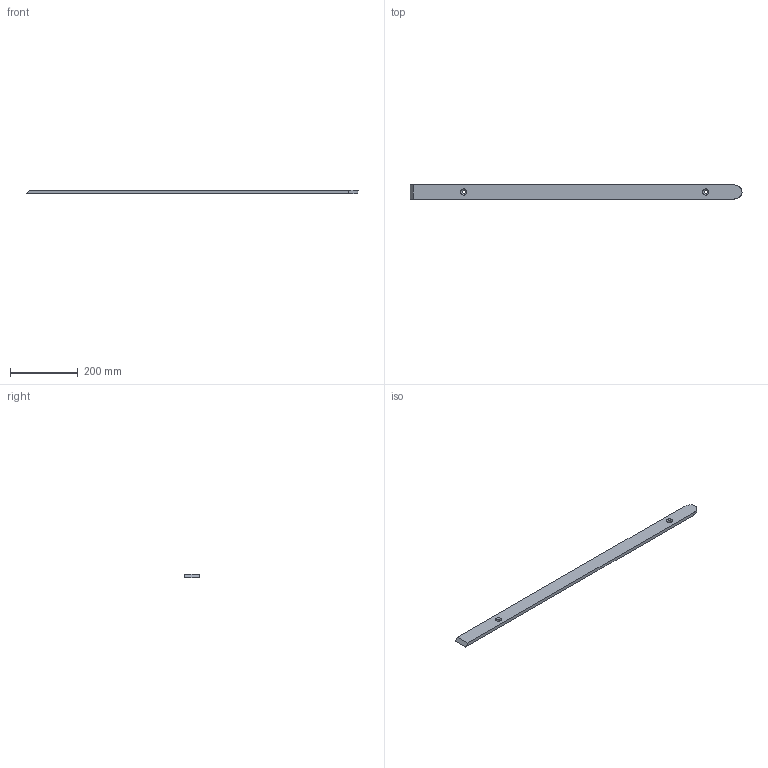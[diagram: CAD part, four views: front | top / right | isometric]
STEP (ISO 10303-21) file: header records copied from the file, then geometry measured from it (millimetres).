
FILE_DESCRIPTION(/* description */ (''),/* implementation_level */ '2;1');
FILE_NAME(/* name */ 'Pos119-Plaatwerk D= 10-S235JRG2-3st',/* time_stamp */ '2024-08-06T13:37:44+02:00',/* author */ (''),/* organization */ (''),/* preprocessor_version */ 'ST-DEVELOPER v16.5',/* originating_system */ 'HiCAD 2024 2901.2 Build 361',/* authorisation */ '');
FILE_SCHEMA (('AUTOMOTIVE_DESIGN { 1 0 10303 214 1 1 1 1 }'));
Length unit declared in the file: millimetre
Products named in the file (1): Pos119-Plaatwerk D= 10-S235JRG2-3st
Bounding box: 982.06 x 42.4 x 10 mm (x, y, z)
Volume: 409439.7 mm3; surface area: 102914.8 mm2
Topology: 1 solids, 1 shells, 10 faces, 23 edges, 18 vertices
Faces by surface type: plane 5, cone 2, cylinder 2, bspline 1
Full cylindrical faces by diameter (mm): 11 x2
Entity records: 969 total; most frequent: CARTESIAN_POINT 564, DIRECTION 38, PRESENTATION_STYLE_ASSIGNMENT 37, COLOUR_RGB 37, DRAUGHTING_PRE_DEFINED_CURVE_FONT 36, CURVE_STYLE 36, OVER_RIDING_STYLED_ITEM 36, ORIENTED_EDGE 36
